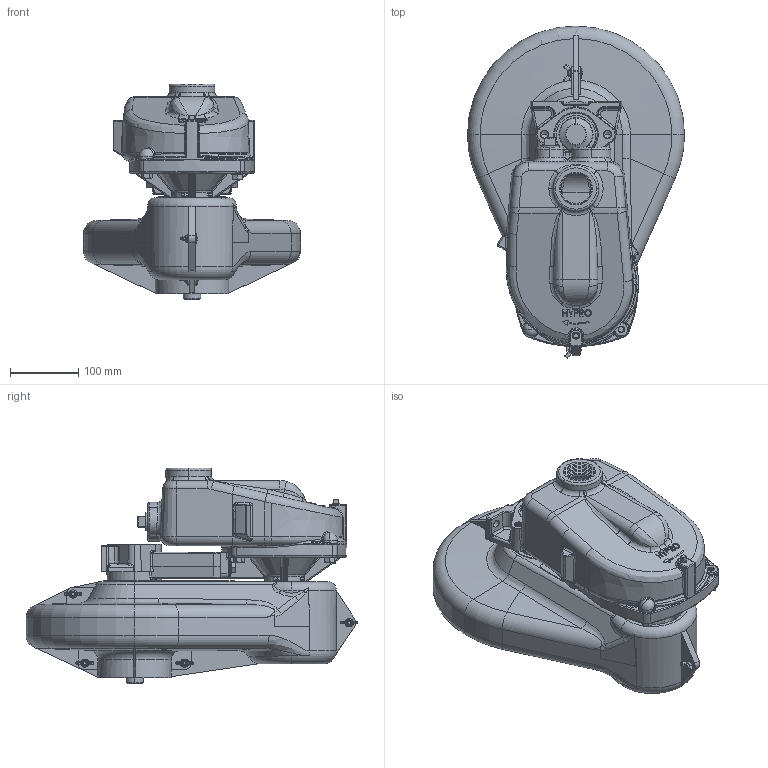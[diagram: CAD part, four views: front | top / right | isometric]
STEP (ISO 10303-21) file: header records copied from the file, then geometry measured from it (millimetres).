
FILE_DESCRIPTION (( 'STEP AP203' ), '1' );
FILE_NAME ('9403C-540S-SP.step', '2013-09-18T21:40:12', ( '' ), ( '' ), 'SwSTEP 2.0', 'SolidWorks 2012', '' );
FILE_SCHEMA (( 'CONFIG_CONTROL_DESIGN' ));
Length unit declared in the file: inch
Products named in the file (1): 9403C-540S-SP
Bounding box: 317.5 x 485.7 x 315.8 mm (x, y, z)
Volume: 3472726.6 mm3; surface area: 1137303.9 mm2
Topology: 1 solids, 39 shells, 3229 faces, 7747 edges, 4588 vertices
Faces by surface type: plane 870, cone 794, cylinder 623, bspline 543, torus 350, sphere 49
Entity records: 116804 total; most frequent: CARTESIAN_POINT 45857, ORIENTED_EDGE 15342, DIRECTION 14313, EDGE_CURVE 7671, AXIS2_PLACEMENT_3D 5582, VERTEX_POINT 4572, EDGE_LOOP 3371, ADVANCED_FACE 3229
